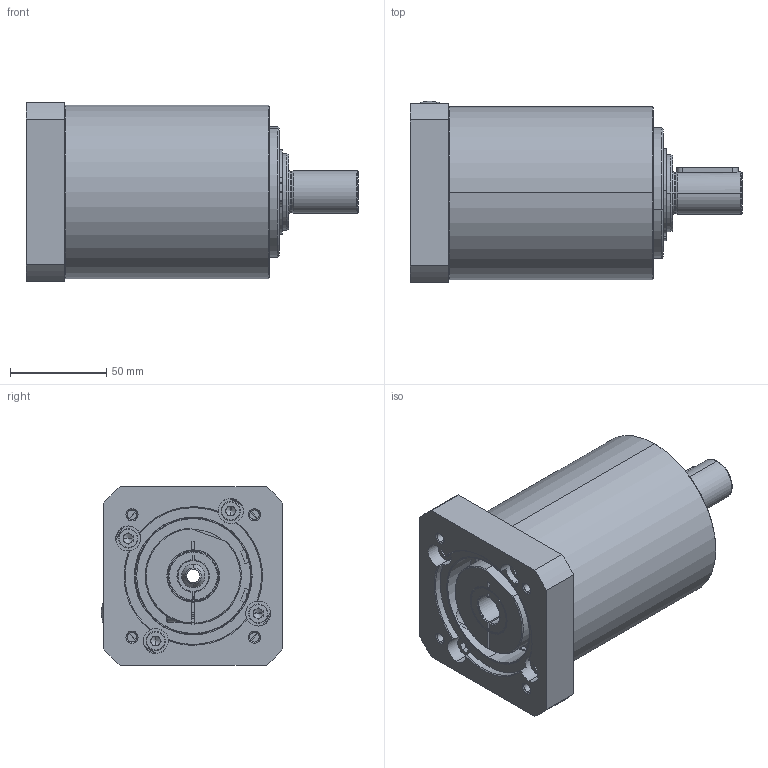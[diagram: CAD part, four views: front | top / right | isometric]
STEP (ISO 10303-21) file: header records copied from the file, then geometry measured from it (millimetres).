
FILE_DESCRIPTION (( 'STEP AP214' ), '1' );
FILE_NAME ('AL-020-RRR-FFF-MMM-S-LL-XXX-AXX-0000.STEP', '2019-10-23T15:27:12', ( '' ), ( '' ), 'SwSTEP 2.0', 'SolidWorks 2019', '' );
FILE_SCHEMA (( 'AUTOMOTIVE_DESIGN' ));
Length unit declared in the file: millimetre
Products named in the file (1): AL-020-RRR-FFF-MMM-S-LL-XXX-AXX-0000
Bounding box: 172.5 x 94.27 x 93 mm (x, y, z)
Surface area: 81864.1 mm2 (no closed solid volume)
Topology: 0 solids, 21 shells, 287 faces, 918 edges, 627 vertices
Faces by surface type: cylinder 104, plane 84, cone 60, torus 35, bspline 2, sphere 2
Entity records: 13824 total; most frequent: CARTESIAN_POINT 2657, DIRECTION 1755, ORIENTED_EDGE 1473, EDGE_CURVE 908, AXIS2_PLACEMENT_3D 688, VERTEX_POINT 627, CIRCLE 402, VECTOR 379
